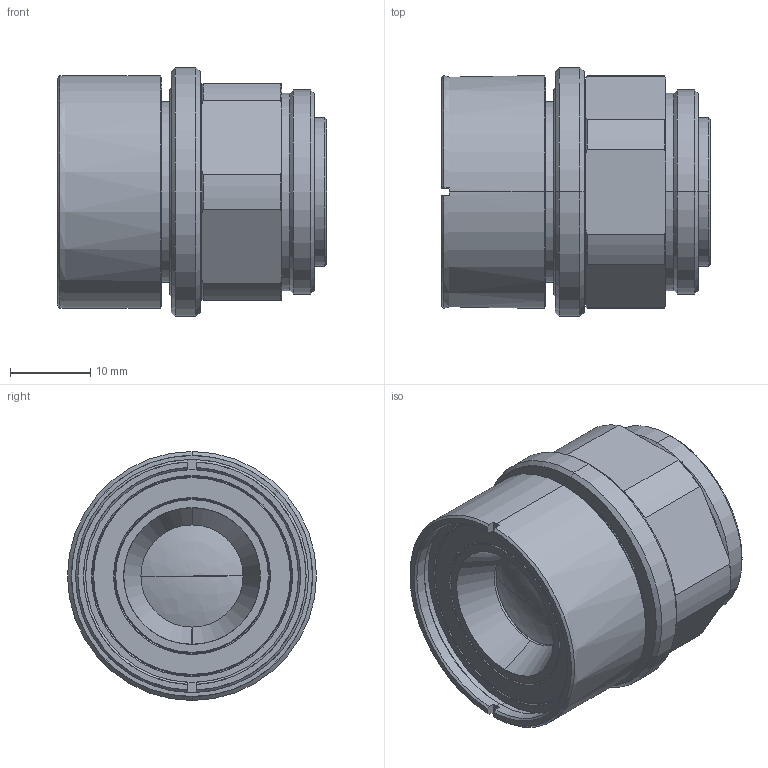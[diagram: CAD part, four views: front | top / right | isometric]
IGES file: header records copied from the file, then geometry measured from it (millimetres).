
Start section: SolidWorks IGES file using analytic representation for surfaces
Global section: file name: C:\Users\tsuji_vst\Documents\【作業フォルダ】\_3D\00 VST\MCA\確認待ち\VS-MCA15\VS-MCA15.IGS; native system: SolidWorks 2017; preprocessor: SolidWorks 2017; author: tsuji_vst; date: 170907.193158; units: millimetre
Bounding box: 33.5 x 31 x 31 mm (x, y, z)
Surface area: 6174.7 mm2 (no closed solid volume)
Topology: 0 solids, 0 shells, 129 faces, 1604 edges, 1602 vertices
Faces by surface type: revolution 100, bspline 29
